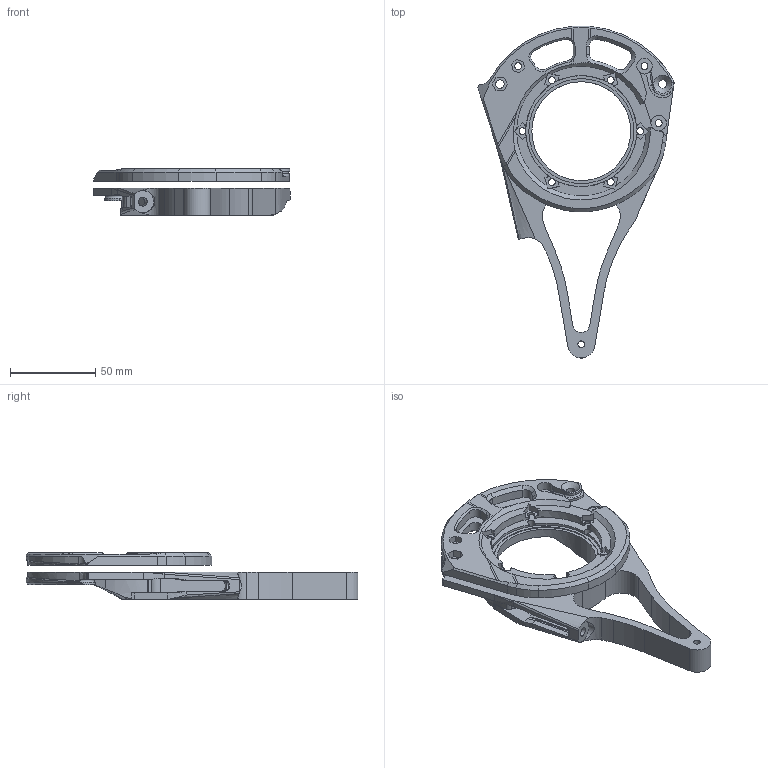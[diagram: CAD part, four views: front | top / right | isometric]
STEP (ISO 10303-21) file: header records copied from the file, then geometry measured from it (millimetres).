
FILE_DESCRIPTION(/* description */ ('CAx-IF Rec.Pracs.---Representation and Presentation of Product Manufacturing Information (PMI)---4.0---2014-10-13','CAx-IF Rec.Pracs.---3D Tessellated Geometry---0.4---2014-09-14','2;1'),/* implementation_level */ '2;1');
FILE_NAME(/* name */ 'qc1_p21_big_reel',/* time_stamp */ '2026-07-25T07:18:04+03:00',/* author */ (''),/* organization */ (''),/* preprocessor_version */ 'ST-DEVELOPER v19.4',/* originating_system */ 'SIEMENS PLM Software NX2306.1700',/* authorisation */ $);
FILE_SCHEMA (('AP242_MANAGED_MODEL_BASED_3D_ENGINEERING_MIM_LF { 1 0 10303 442 3 1 4 }'));
Length unit declared in the file: millimetre
Products named in the file (1): qc1_p21_big_reel
Bounding box: 114.93 x 194.6 x 27.35 mm (x, y, z)
Volume: 112105.1 mm3; surface area: 46705.1 mm2
Topology: 2 solids, 2 shells, 400 faces, 1162 edges, 760 vertices
Faces by surface type: cylinder 168, plane 156, cone 42, bspline 29, torus 5
Full cylindrical faces by diameter (mm): 4.01 x13, 5.01 x4, 5.2 x1, 9.2 x3, 58 x1, 61.6 x1
Entity records: 14414 total; most frequent: CARTESIAN_POINT 4028, ORIENTED_EDGE 2234, DIRECTION 2102, EDGE_CURVE 1117, AXIS2_PLACEMENT_3D 782, VERTEX_POINT 741, LINE 538, VECTOR 538
